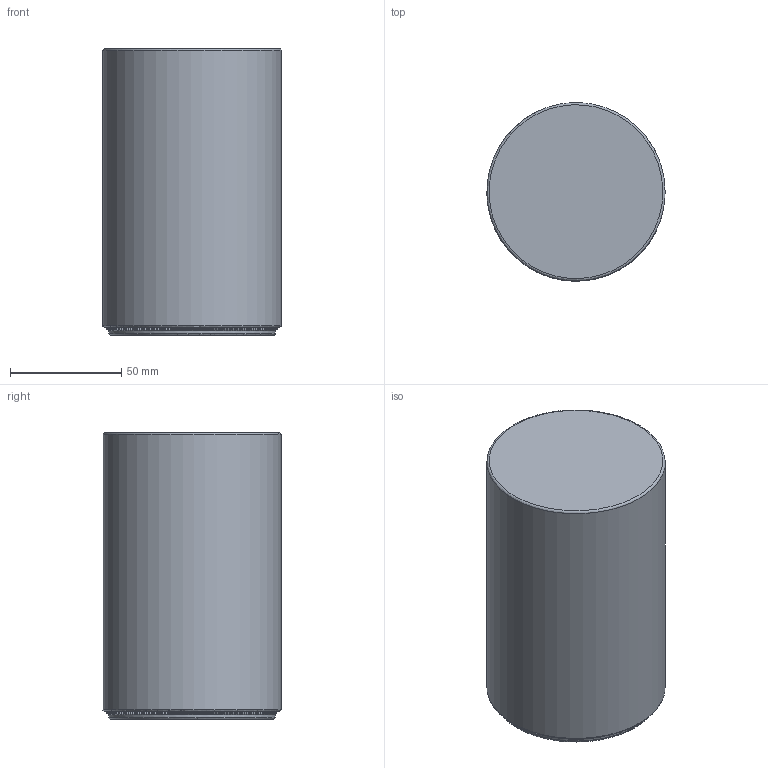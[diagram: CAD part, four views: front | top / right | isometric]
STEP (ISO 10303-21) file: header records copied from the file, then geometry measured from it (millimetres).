
FILE_DESCRIPTION ((), '1');
FILE_NAME ('E:\_Liczy się słowo\_Modelowanie SIGMA\TUBO\gotowe\TUBO.stp', '2025-04-02T13:50:25', ('Unknown'), ('Unknown'), 'HarmonyWare STEP v2.1.4', 'HarmonyWare Translators', '');
FILE_SCHEMA (('CONFIG_CONTROL_DESIGN'));
Length unit declared in the file: centimetre
Products named in the file (3): klosz; oprawka
Assembly tree (2 placements, depth 2):
  (unnamed)
    klosz
    oprawka
Bounding box: 79.99 x 79.94 x 128.79 mm (x, y, z)
Volume: 624165.9 mm3; surface area: 118948.3 mm2
Topology: 2 solids, 2 shells, 913 faces, 2187 edges, 1461 vertices
Faces by surface type: bspline 913
Entity records: 43221 total; most frequent: CARTESIAN_POINT 22282, ORIENTED_EDGE 4364, EDGE_CURVE 2182, B_SPLINE_CURVE_WITH_KNOTS 1630, VERTEX_POINT 1453, EDGE_LOOP 1093, COLOUR_RGB 917, PRESENTATION_STYLE_ASSIGNMENT 917
